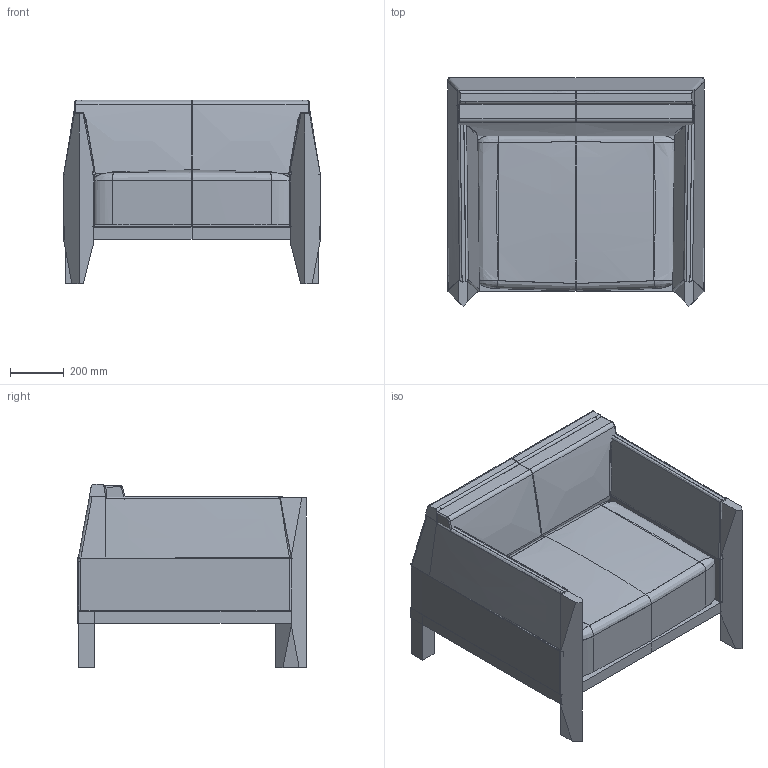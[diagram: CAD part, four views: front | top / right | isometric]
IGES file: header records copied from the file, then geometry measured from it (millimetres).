
Global section: file name: C:\Users\market02\Desktop\RYAN\HILT\fauteil\exportation\FHILTCA210_CANAPE_SOFA_HILT.igs; native system: Rhinoceros ( Dec 14 2021 ); preprocessor: Trout Lake IGES 012 Dec 14 2021; date: 220721.132635; units: millimetre
Bounding box: 952.48 x 848.34 x 680.54 mm (x, y, z)
Surface area: 6635692.4 mm2 (no closed solid volume)
Topology: 0 solids, 0 shells, 216 faces, 1968 edges, 1962 vertices
Faces by surface type: bspline 216
